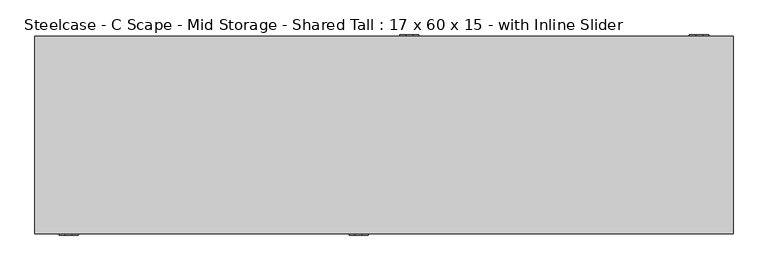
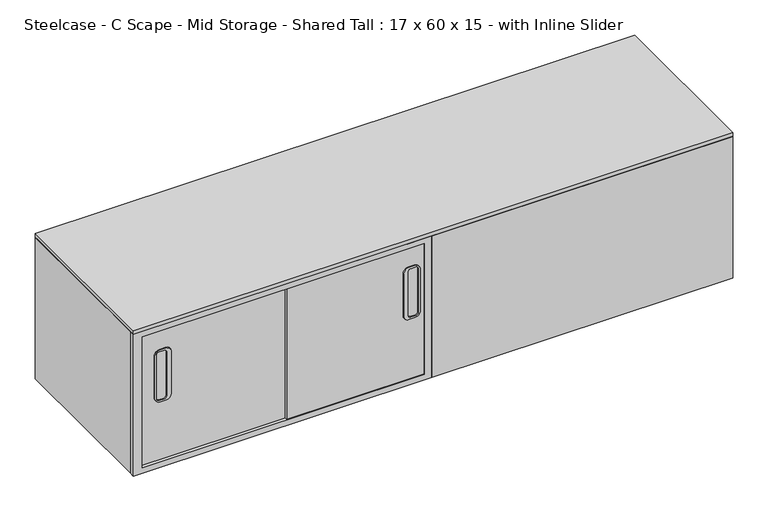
"""IFC4 building model written with IfcOpenShell, lengths in millimetres: furniture geometry, Steelcase - C Scape - Mid Storage - Shared Tall : 17 x 60 x 15 - with Inline Slider."""

from ifc_helpers import new_model, si_unit, point, frame, frame_2d, origin, place, context, project, spatial, polyline, circle_curve, trimmed, segment, composite_curve, outline, extrude, faceted_brep, source, transform, mapped, element, save


def steelcase_c_scape_mid_storage_shared_tall_17_x_60_x_15_with_d28760dc(model_context):
    return source(origin(), model_context, "Body", "SolidModel", [
        faceted_brep([(765.175, 215.9, 1219.279375), (0.0, 215.9, 1219.279375), (0.0, -201.2949309, 1219.279375), (21.9711633, -201.2949309, 1219.279375), (21.9711633, 206.3755809, 1219.279375), (758.825, 206.3755809, 1219.279375), (758.825, -215.9, 1219.279375), (1524.0, -215.9, 1219.279375), (1524.0, 206.3755809, 1219.279375), (1501.902, 206.3755809, 1219.279375), (1501.902, -201.2949309, 1219.279375), (765.175, -201.2949309, 1219.279375), (1524.0, 206.3755809, 838.2), (1524.0, -215.9, 838.2), (758.825, -215.9, 838.2), (758.825, -201.2949309, 838.2), (0.0, -201.2949309, 838.2), (0.0, 215.9, 838.2), (765.175, 215.9, 838.2), (765.175, 206.3755809, 838.2), (758.825, -201.2949309, 853.4399855), (21.9711633, -201.2949309, 853.4399855), (21.9711633, 206.3755809, 853.4399855), (758.825, 206.3755809, 853.4399855), (765.175, 206.3755809, 853.4399855), (1501.902, 206.3755809, 853.4399855), (1501.902, -201.2949309, 853.4399855), (765.175, -201.2949309, 853.4399855)], [[[0, 1, 2, 3, 4, 5, 6, 7, 8, 9, 10, 11]], [[12, 13, 14, 15, 16, 17, 18, 19]], [[1, 0, 18, 17]], [[2, 1, 17, 16]], [[3, 2, 16, 15, 20, 21]], [[4, 3, 21, 22]], [[5, 4, 22, 23]], [[6, 5, 23, 20, 15, 14]], [[7, 6, 14, 13]], [[8, 7, 13, 12]], [[9, 8, 12, 19, 24, 25]], [[10, 9, 25, 26]], [[11, 10, 26, 27]], [[0, 11, 27, 24, 19, 18]], [[21, 20, 23, 22]], [[25, 24, 27, 26]]]),
        extrude(outline(polyline([(1219.279375, 1524.0), (1219.279375, 765.175), (838.2, 765.175), (838.2, 1524.0), (1219.279375, 1524.0)]), holes=[polyline([(1205.8427824, 1501.902), (853.4399855, 1501.902), (853.4399855, 784.098), (1205.8427824, 784.098), (1205.8427824, 1501.902)])]), frame((0.0, 206.3755809, 0.0), z_axis=(0.0, 1.0, 0.0), x_axis=(0.0, 0.0, 1.0)), (0.0, 0.0, 1.0), 9.5244191),
        extrude(outline(polyline([(1219.279375, 758.825), (1219.279375, 0.0), (838.2, 0.0), (838.2, 758.825), (1219.279375, 758.825)]), holes=[polyline([(1205.8427824, 739.902), (853.4399855, 739.902), (853.4399855, 21.9711633), (1205.8427824, 21.9711633), (1205.8427824, 739.902)])]), frame((0.0, -215.9, 0.0), z_axis=(0.0, 1.0, 0.0), x_axis=(0.0, 0.0, 1.0)), (0.0, 0.0, 1.0), 14.6050691),
        extrude(outline(polyline([(1524.0, -215.9), (0.0, -215.9), (0.0, 215.9), (1524.0, 215.9), (1524.0, -215.9)])), frame((0.0, 0.0, 1219.279375), z_axis=(0.0, 0.0, 1.0), x_axis=(1.0, 0.0, 0.0)), (0.0, 0.0, 1.0), 10.080625),
        extrude(outline(composite_curve([segment(trimmed(circle_curve(frame_2d((1142.6476077, 1457.4179733)), 13.716), [point((1142.6476077, 1471.1339733))], [point((1156.3636077, 1457.4179733))], False, "CARTESIAN"), True, "CONTINUOUS"), segment(polyline([(1156.3636077, 1457.4179733), (1156.3636077, 1442.4703473)]), True, "CONTINUOUS"), segment(trimmed(circle_curve(frame_2d((1142.7362332, 1442.4703473)), 13.6273746), [point((1156.3636077, 1442.4703473))], [point((1142.7362332, 1428.8429727))], False, "CARTESIAN"), True, "CONTINUOUS"), segment(polyline([(1142.7362332, 1428.8429727), (1030.3795593, 1428.8429727)]), True, "CONTINUOUS"), segment(trimmed(circle_curve(frame_2d((1030.3795593, 1442.5589727)), 13.716), [point((1030.3795593, 1428.8429727))], [point((1016.6635593, 1442.5589727))], False, "CARTESIAN"), True, "CONTINUOUS"), segment(polyline([(1016.6635593, 1442.5589727), (1016.6635593, 1457.4179733)]), True, "CONTINUOUS"), segment(trimmed(circle_curve(frame_2d((1030.3795593, 1457.4179733)), 13.716), [point((1016.6635593, 1457.4179733))], [point((1030.3795593, 1471.1339733))], False, "CARTESIAN"), True, "CONTINUOUS"), segment(polyline([(1030.3795593, 1471.1339733), (1142.6476077, 1471.1339733)]), True, "CONTINUOUS")], self_intersect=False), holes=[composite_curve([segment(trimmed(circle_curve(frame_2d((1027.8395729, 1459.9579733)), 6.35), [point((1027.8395729, 1466.3079733))], [point((1021.4895729, 1459.9579733))], True, "CARTESIAN"), True, "CONTINUOUS"), segment(polyline([(1021.4895729, 1459.9579733), (1021.4895729, 1447.2579794)]), True, "CONTINUOUS"), segment(trimmed(circle_curve(frame_2d((1027.8395729, 1447.2579794)), 6.35), [point((1021.4895729, 1447.2579794))], [point((1027.8395729, 1440.9079794))], True, "CARTESIAN"), True, "CONTINUOUS"), segment(polyline([(1027.8395729, 1440.9079794), (1145.1875942, 1440.9079794)]), True, "CONTINUOUS"), segment(trimmed(circle_curve(frame_2d((1145.1875942, 1447.2579794)), 6.35), [point((1145.1875942, 1440.9079794))], [point((1151.5375942, 1447.2579794))], True, "CARTESIAN"), True, "CONTINUOUS"), segment(polyline([(1151.5375942, 1447.2579794), (1151.5375942, 1459.9579733)]), True, "CONTINUOUS"), segment(trimmed(circle_curve(frame_2d((1145.1875942, 1459.9579733)), 6.35), [point((1151.5375942, 1459.9579733))], [point((1145.1875942, 1466.3079733))], True, "CARTESIAN"), True, "CONTINUOUS"), segment(polyline([(1145.1875942, 1466.3079733), (1027.8395729, 1466.3079733)]), True, "CONTINUOUS")], self_intersect=False)]), frame((0.0, 215.9, 0.0), z_axis=(0.0, 1.0, 0.0), x_axis=(0.0, 0.0, 1.0)), (0.0, 0.0, 1.0), 2.54),
        extrude(outline(composite_curve([segment(polyline([(1142.6476077, 795.9430267), (1030.3795593, 795.9430267)]), True, "CONTINUOUS"), segment(trimmed(circle_curve(frame_2d((1030.3795593, 809.6590267)), 13.716), [point((1030.3795593, 795.9430267))], [point((1016.6635593, 809.6590267))], False, "CARTESIAN"), True, "CONTINUOUS"), segment(polyline([(1016.6635593, 809.6590267), (1016.6635593, 824.5180273)]), True, "CONTINUOUS"), segment(trimmed(circle_curve(frame_2d((1030.3795593, 824.5180273)), 13.716), [point((1016.6635593, 824.5180273))], [point((1030.3795593, 838.2340273))], False, "CARTESIAN"), True, "CONTINUOUS"), segment(polyline([(1030.3795593, 838.2340273), (1142.7362332, 838.2340273)]), True, "CONTINUOUS"), segment(trimmed(circle_curve(frame_2d((1142.7362332, 824.6066527)), 13.6273746), [point((1142.7362332, 838.2340273))], [point((1156.3636077, 824.6066527))], False, "CARTESIAN"), True, "CONTINUOUS"), segment(polyline([(1156.3636077, 824.6066527), (1156.3636077, 809.6590267)]), True, "CONTINUOUS"), segment(trimmed(circle_curve(frame_2d((1142.6476077, 809.6590267)), 13.716), [point((1156.3636077, 809.6590267))], [point((1142.6476077, 795.9430267))], False, "CARTESIAN"), True, "CONTINUOUS")], self_intersect=False), holes=[composite_curve([segment(polyline([(1027.8395729, 800.7690267), (1145.1875942, 800.7690267)]), True, "CONTINUOUS"), segment(trimmed(circle_curve(frame_2d((1145.1875942, 807.1190267)), 6.35), [point((1145.1875942, 800.7690267))], [point((1151.5375942, 807.1190267))], True, "CARTESIAN"), True, "CONTINUOUS"), segment(polyline([(1151.5375942, 807.1190267), (1151.5375942, 819.8190206)]), True, "CONTINUOUS"), segment(trimmed(circle_curve(frame_2d((1145.1875942, 819.8190206)), 6.35), [point((1151.5375942, 819.8190206))], [point((1145.1875942, 826.1690206))], True, "CARTESIAN"), True, "CONTINUOUS"), segment(polyline([(1145.1875942, 826.1690206), (1027.8395729, 826.1690206)]), True, "CONTINUOUS"), segment(trimmed(circle_curve(frame_2d((1027.8395729, 819.8190206)), 6.35), [point((1027.8395729, 826.1690206))], [point((1021.4895729, 819.8190206))], True, "CARTESIAN"), True, "CONTINUOUS"), segment(polyline([(1021.4895729, 819.8190206), (1021.4895729, 807.1190267)]), True, "CONTINUOUS"), segment(trimmed(circle_curve(frame_2d((1027.8395729, 807.1190267)), 6.35), [point((1021.4895729, 807.1190267))], [point((1027.8395729, 800.7690267))], True, "CARTESIAN"), True, "CONTINUOUS")], self_intersect=False)]), frame((0.0, 215.9, 0.0), z_axis=(0.0, 1.0, 0.0), x_axis=(0.0, 0.0, 1.0)), (0.0, 0.0, 1.0), 2.54),
        extrude(outline(composite_curve([segment(trimmed(circle_curve(frame_2d((1142.6476077, 714.3409733)), 13.716), [point((1142.6476077, 728.0569733))], [point((1156.3636077, 714.3409733))], False, "CARTESIAN"), True, "CONTINUOUS"), segment(polyline([(1156.3636077, 714.3409733), (1156.3636077, 699.3933473)]), True, "CONTINUOUS"), segment(trimmed(circle_curve(frame_2d((1142.7362332, 699.3933473)), 13.6273746), [point((1156.3636077, 699.3933473))], [point((1142.7362332, 685.7659727))], False, "CARTESIAN"), True, "CONTINUOUS"), segment(polyline([(1142.7362332, 685.7659727), (1030.3795593, 685.7659727)]), True, "CONTINUOUS"), segment(trimmed(circle_curve(frame_2d((1030.3795593, 699.4819727)), 13.716), [point((1030.3795593, 685.7659727))], [point((1016.6635593, 699.4819727))], False, "CARTESIAN"), True, "CONTINUOUS"), segment(polyline([(1016.6635593, 699.4819727), (1016.6635593, 714.3409733)]), True, "CONTINUOUS"), segment(trimmed(circle_curve(frame_2d((1030.3795593, 714.3409733)), 13.716), [point((1016.6635593, 714.3409733))], [point((1030.3795593, 728.0569733))], False, "CARTESIAN"), True, "CONTINUOUS"), segment(polyline([(1030.3795593, 728.0569733), (1142.6476077, 728.0569733)]), True, "CONTINUOUS")], self_intersect=False), holes=[composite_curve([segment(trimmed(circle_curve(frame_2d((1027.8395729, 716.8809733)), 6.35), [point((1027.8395729, 723.2309733))], [point((1021.4895729, 716.8809733))], True, "CARTESIAN"), True, "CONTINUOUS"), segment(polyline([(1021.4895729, 716.8809733), (1021.4895729, 704.1809794)]), True, "CONTINUOUS"), segment(trimmed(circle_curve(frame_2d((1027.8395729, 704.1809794)), 6.35), [point((1021.4895729, 704.1809794))], [point((1027.8395729, 697.8309794))], True, "CARTESIAN"), True, "CONTINUOUS"), segment(polyline([(1027.8395729, 697.8309794), (1145.1875942, 697.8309794)]), True, "CONTINUOUS"), segment(trimmed(circle_curve(frame_2d((1145.1875942, 704.1809794)), 6.35), [point((1145.1875942, 697.8309794))], [point((1151.5375942, 704.1809794))], True, "CARTESIAN"), True, "CONTINUOUS"), segment(polyline([(1151.5375942, 704.1809794), (1151.5375942, 716.8809733)]), True, "CONTINUOUS"), segment(trimmed(circle_curve(frame_2d((1145.1875942, 716.8809733)), 6.35), [point((1151.5375942, 716.8809733))], [point((1145.1875942, 723.2309733))], True, "CARTESIAN"), True, "CONTINUOUS"), segment(polyline([(1145.1875942, 723.2309733), (1027.8395729, 723.2309733)]), True, "CONTINUOUS")], self_intersect=False)]), frame((0.0, -218.44, 0.0), z_axis=(0.0, 1.0, 0.0), x_axis=(0.0, 0.0, 1.0)), (0.0, 0.0, 1.0), 2.54),
        extrude(outline(composite_curve([segment(polyline([(1142.6476077, 52.73919), (1030.3795593, 52.73919)]), True, "CONTINUOUS"), segment(trimmed(circle_curve(frame_2d((1030.3795593, 66.45519)), 13.716), [point((1030.3795593, 52.73919))], [point((1016.6635593, 66.45519))], False, "CARTESIAN"), True, "CONTINUOUS"), segment(polyline([(1016.6635593, 66.45519), (1016.6635593, 81.3141906)]), True, "CONTINUOUS"), segment(trimmed(circle_curve(frame_2d((1030.3795593, 81.3141906)), 13.716), [point((1016.6635593, 81.3141906))], [point((1030.3795593, 95.0301906))], False, "CARTESIAN"), True, "CONTINUOUS"), segment(polyline([(1030.3795593, 95.0301906), (1142.7362332, 95.0301906)]), True, "CONTINUOUS"), segment(trimmed(circle_curve(frame_2d((1142.7362332, 81.402816)), 13.6273746), [point((1142.7362332, 95.0301906))], [point((1156.3636077, 81.402816))], False, "CARTESIAN"), True, "CONTINUOUS"), segment(polyline([(1156.3636077, 81.402816), (1156.3636077, 66.45519)]), True, "CONTINUOUS"), segment(trimmed(circle_curve(frame_2d((1142.6476077, 66.45519)), 13.716), [point((1156.3636077, 66.45519))], [point((1142.6476077, 52.73919))], False, "CARTESIAN"), True, "CONTINUOUS")], self_intersect=False), holes=[composite_curve([segment(polyline([(1027.8395729, 57.56519), (1145.1875942, 57.56519)]), True, "CONTINUOUS"), segment(trimmed(circle_curve(frame_2d((1145.1875942, 63.91519)), 6.35), [point((1145.1875942, 57.56519))], [point((1151.5375942, 63.91519))], True, "CARTESIAN"), True, "CONTINUOUS"), segment(polyline([(1151.5375942, 63.91519), (1151.5375942, 76.6151839)]), True, "CONTINUOUS"), segment(trimmed(circle_curve(frame_2d((1145.1875942, 76.6151839)), 6.35), [point((1151.5375942, 76.6151839))], [point((1145.1875942, 82.9651839))], True, "CARTESIAN"), True, "CONTINUOUS"), segment(polyline([(1145.1875942, 82.9651839), (1027.8395729, 82.9651839)]), True, "CONTINUOUS"), segment(trimmed(circle_curve(frame_2d((1027.8395729, 76.6151839)), 6.35), [point((1027.8395729, 82.9651839))], [point((1021.4895729, 76.6151839))], True, "CARTESIAN"), True, "CONTINUOUS"), segment(polyline([(1021.4895729, 76.6151839), (1021.4895729, 63.91519)]), True, "CONTINUOUS"), segment(trimmed(circle_curve(frame_2d((1027.8395729, 63.91519)), 6.35), [point((1021.4895729, 63.91519))], [point((1027.8395729, 57.56519))], True, "CARTESIAN"), True, "CONTINUOUS")], self_intersect=False)]), frame((0.0, -218.44, 0.0), z_axis=(0.0, 1.0, 0.0), x_axis=(0.0, 0.0, 1.0)), (0.0, 0.0, 1.0), 2.54),
        extrude(outline(polyline([(1133.5385, 206.3755809), (765.175, 206.3755809), (765.175, 211.1377905), (1133.5385, 211.1377905), (1133.5385, 206.3755809)])), frame((0.0, 0.0, 853.4399855), z_axis=(0.0, 0.0, 1.0), x_axis=(1.0, 0.0, 0.0)), (0.0, 0.0, 1.0), 365.8393895),
        extrude(outline(polyline([(1501.902, 211.1377905), (1133.5385, 211.1377905), (1133.5385, 214.5444948), (1501.902, 214.5444948), (1501.902, 211.1377905)])), frame((0.0, 0.0, 853.4399855), z_axis=(0.0, 0.0, 1.0), x_axis=(1.0, 0.0, 0.0)), (0.0, 0.0, 1.0), 365.8393895),
        extrude(outline(polyline([(758.825, -214.5444948), (390.3980817, -214.5444948), (390.3980817, -208.5974655), (758.825, -208.5974655), (758.825, -214.5444948)])), frame((0.0, 0.0, 853.4399855), z_axis=(0.0, 0.0, 1.0), x_axis=(1.0, 0.0, 0.0)), (0.0, 0.0, 1.0), 365.8393895),
        extrude(outline(polyline([(390.3980817, -208.5974655), (21.9711633, -208.5974655), (21.9711633, -201.2949309), (390.3980817, -201.2949309), (390.3980817, -208.5974655)])), frame((0.0, 0.0, 853.4399855), z_axis=(0.0, 0.0, 1.0), x_axis=(1.0, 0.0, 0.0)), (0.0, 0.0, 1.0), 365.8393895),
    ])


if __name__ == "__main__":
    model = new_model("IFC4")
    model_context = context("Model", 3, world=origin())
    ifc_project = project(units=[si_unit("LENGTHUNIT", "METRE", prefix="MILLI")], contexts=[model_context])
    site = spatial("IfcSite", under=ifc_project)
    building = spatial("IfcBuilding", under=site)
    placement = place(None, origin())
    steelcase_c_scape_mid_storage_shared_tall_17_x_60_x_15_with_shape = steelcase_c_scape_mid_storage_shared_tall_17_x_60_x_15_with_d28760dc(model_context)
    element("IfcFurniture", 1, ObjectType="Steelcase - C Scape - Mid Storage - Shared Tall : 17 x 60 x 15 - with Inline Slider", at=placement, inside=building, context=model_context, shape_type="MappedRepresentation", body=[
        mapped(steelcase_c_scape_mid_storage_shared_tall_17_x_60_x_15_with_shape, transform((0.0, 0.0, 0.0), x_axis=(1.0, 0.0, 0.0), y_axis=(0.0, 1.0, 0.0), z_axis=(0.0, 0.0, 1.0))),
    ])
    save(model, "model.ifc")
